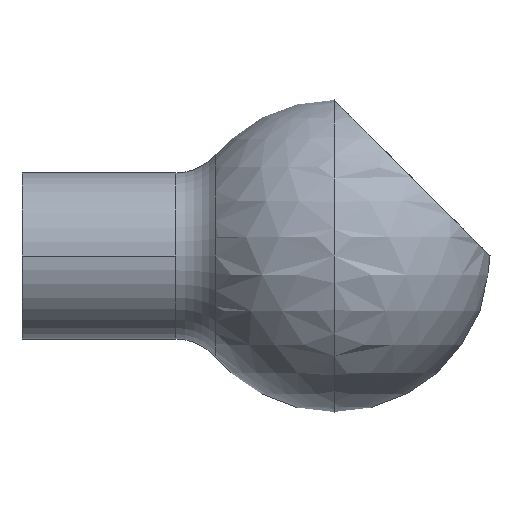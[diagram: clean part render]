
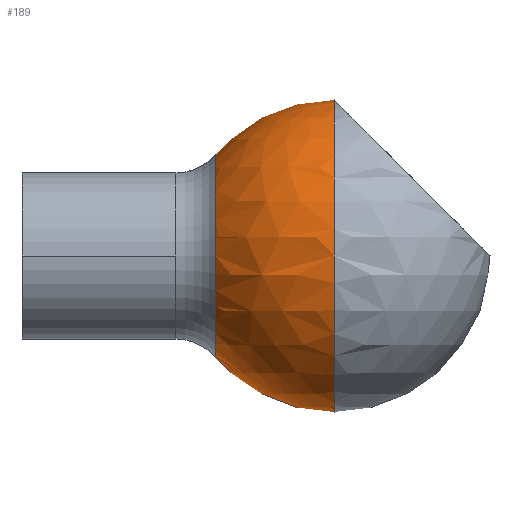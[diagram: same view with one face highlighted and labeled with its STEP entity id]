
A CAD part, left-side view. The second image highlights one B-rep face of the part: STEP entity #189.
In plain terms, the highlighted spherical face has radius 15 mm.
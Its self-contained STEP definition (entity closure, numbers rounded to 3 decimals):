
#167 = EDGE_CURVE( '', #179, #377, #442, .T. );
#177 = VERTEX_POINT( '', #453 );
#179 = VERTEX_POINT( '', #455 );
#189 = ADVANCED_FACE( '', ( #465 ), #466, .T. );
#205 = VERTEX_POINT( '', #483 );
#217 = VERTEX_POINT( '', #497 );
#223 = EDGE_CURVE( '', #205, #217, #503, .T. );
#295 = VERTEX_POINT( '', #581 );
#321 = EDGE_CURVE( '', #177, #179, #612, .T. );
#323 = EDGE_CURVE( '', #377, #407, #614, .T. );
#345 = VERTEX_POINT( '', #642 );
#367 = EDGE_CURVE( '', #407, #345, #666, .T. );
#377 = VERTEX_POINT( '', #676 );
#389 = EDGE_CURVE( '', #295, #205, #689, .T. );
#395 = EDGE_CURVE( '', #345, #295, #695, .T. );
#397 = EDGE_CURVE( '', #217, #177, #697, .T. );
#407 = VERTEX_POINT( '', #708 );
#442 = CIRCLE( '', #739, 9.75 );
#453 = CARTESIAN_POINT( '', ( 0., -18.601, -9.75 ) );
#455 = CARTESIAN_POINT( '', ( 0., -18.601, 9.75 ) );
#465 = FACE_OUTER_BOUND( '', #765, .T. );
#466 = SPHERICAL_SURFACE( '', #766, 15. );
#483 = CARTESIAN_POINT( '', ( 9., -30., -12. ) );
#497 = CARTESIAN_POINT( '', ( 9., -18.601, -3.75 ) );
#503 = CIRCLE( '', #812, 12. );
#581 = CARTESIAN_POINT( '', ( 0., -30., -15. ) );
#612 = CIRCLE( '', #981, 9.75 );
#614 = CIRCLE( '', #984, 12. );
#642 = CARTESIAN_POINT( '', ( 0., -30., 15. ) );
#666 = CIRCLE( '', #1049, 15. );
#676 = CARTESIAN_POINT( '', ( 9., -18.601, 3.75 ) );
#689 = CIRCLE( '', #1078, 15. );
#695 = CIRCLE( '', #1087, 15. );
#697 = CIRCLE( '', #1090, 9.75 );
#708 = CARTESIAN_POINT( '', ( 9., -30., 12. ) );
#739 = AXIS2_PLACEMENT_3D( '', #1119, #1120, #1121 );
#765 = EDGE_LOOP( '', ( #1140, #1141, #1142, #1143, #1144, #1145, #1146, #1147 ) );
#766 = AXIS2_PLACEMENT_3D( '', #1148, #1149, #1150 );
#812 = AXIS2_PLACEMENT_3D( '', #1196, #1197, #1198 );
#981 = AXIS2_PLACEMENT_3D( '', #1358, #1359, #1360 );
#984 = AXIS2_PLACEMENT_3D( '', #1361, #1362, #1363 );
#1049 = AXIS2_PLACEMENT_3D( '', #1437, #1438, #1439 );
#1078 = AXIS2_PLACEMENT_3D( '', #1459, #1460, #1461 );
#1087 = AXIS2_PLACEMENT_3D( '', #1463, #1464, #1465 );
#1090 = AXIS2_PLACEMENT_3D( '', #1466, #1467, #1468 );
#1119 = CARTESIAN_POINT( '', ( 0., -18.601, 0. ) );
#1120 = DIRECTION( '', ( 0., 1., 0. ) );
#1121 = DIRECTION( '', ( 0., 0., 1. ) );
#1140 = ORIENTED_EDGE( '', *, *, #395, .F. );
#1141 = ORIENTED_EDGE( '', *, *, #367, .F. );
#1142 = ORIENTED_EDGE( '', *, *, #323, .F. );
#1143 = ORIENTED_EDGE( '', *, *, #167, .F. );
#1144 = ORIENTED_EDGE( '', *, *, #321, .F. );
#1145 = ORIENTED_EDGE( '', *, *, #397, .F. );
#1146 = ORIENTED_EDGE( '', *, *, #223, .F. );
#1147 = ORIENTED_EDGE( '', *, *, #389, .F. );
#1148 = CARTESIAN_POINT( '', ( 0., -30., 0. ) );
#1149 = DIRECTION( '', ( 0., 0., 1. ) );
#1150 = DIRECTION( '', ( 1., 0., 0. ) );
#1196 = CARTESIAN_POINT( '', ( 9., -30., 0. ) );
#1197 = DIRECTION( '', ( 1., 0., 0. ) );
#1198 = DIRECTION( '', ( 0., 0., -1. ) );
#1358 = CARTESIAN_POINT( '', ( 0., -18.601, 0. ) );
#1359 = DIRECTION( '', ( 0., 1., 0. ) );
#1360 = DIRECTION( '', ( 0., 0., 1. ) );
#1361 = CARTESIAN_POINT( '', ( 9., -30., 0. ) );
#1362 = DIRECTION( '', ( 1., 0., 0. ) );
#1363 = DIRECTION( '', ( 0., 0., -1. ) );
#1437 = CARTESIAN_POINT( '', ( 0., -30., 0. ) );
#1438 = DIRECTION( '', ( 0., -1., 0. ) );
#1439 = DIRECTION( '', ( 0., 0., 1. ) );
#1459 = CARTESIAN_POINT( '', ( 0., -30., 0. ) );
#1460 = DIRECTION( '', ( 0., -1., 0. ) );
#1461 = DIRECTION( '', ( 0., 0., 1. ) );
#1463 = CARTESIAN_POINT( '', ( 0., -30., 0. ) );
#1464 = DIRECTION( '', ( 0., -1., 0. ) );
#1465 = DIRECTION( '', ( 0., 0., 1. ) );
#1466 = CARTESIAN_POINT( '', ( 0., -18.601, 0. ) );
#1467 = DIRECTION( '', ( 0., 1., 0. ) );
#1468 = DIRECTION( '', ( 0., 0., 1. ) );
